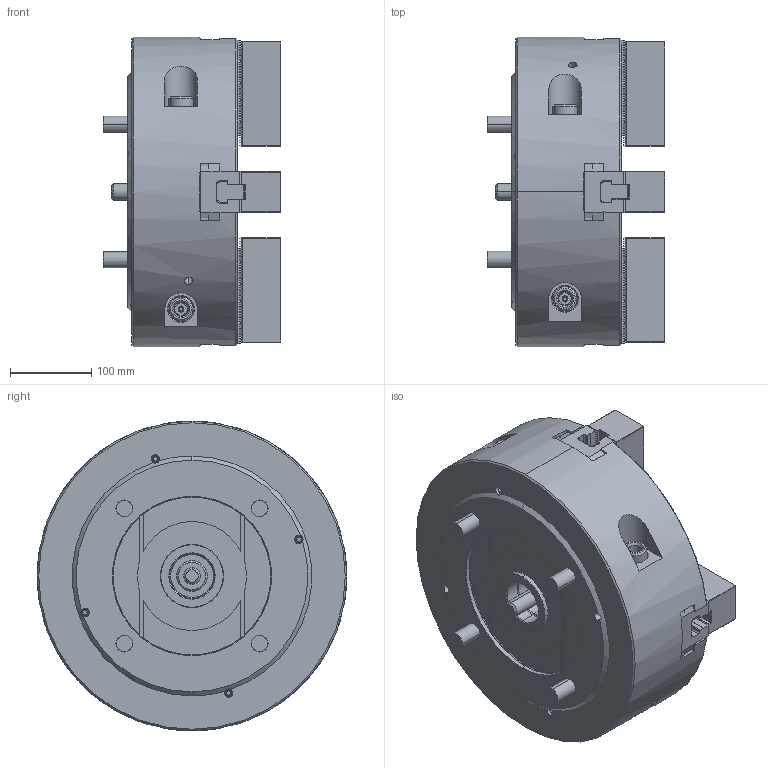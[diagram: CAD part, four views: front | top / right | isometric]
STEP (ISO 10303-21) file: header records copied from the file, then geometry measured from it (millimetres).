
FILE_DESCRIPTION (( 'STEP AP214' ), '1' );
FILE_NAME ('HW-15 61P2759881 ASSY_OC.STEP', '2023-10-13T02:07:12', ( '' ), ( '' ), 'SwSTEP 2.0', 'SolidWorks 2022', '' );
FILE_SCHEMA (( 'AUTOMOTIVE_DESIGN' ));
Length unit declared in the file: millimetre
Products named in the file (7): 61P335564-3_MASTER JAW 1-3_ﾃﾞﾌｫﾙﾄ; 61P323000-4_SOFT JAW_ﾃﾞﾌｫﾙﾄ; 61P400795-6_T NUT_ﾃﾞﾌｫﾙﾄ; HW-15 61P2759881 ASSY_OC; HW-15_BASE^61P275988-1_HW-15 ASSY_ﾃﾞﾌｫﾙﾄ; Bアナツキ M14×40_ﾃﾞﾌｫﾙﾄ; 61P335565-5_MASTER JAW 2-4_ﾃﾞﾌｫﾙﾄ
Assembly tree (21 placements, depth 2):
  HW-15 61P2759881 ASSY_OC
    61P335565-5_MASTER JAW 2-4_ﾃﾞﾌｫﾙﾄ  x2
    61P335564-3_MASTER JAW 1-3_ﾃﾞﾌｫﾙﾄ  x2
    HW-15_BASE^61P275988-1_HW-15 ASSY_ﾃﾞﾌｫﾙﾄ
    61P400795-6_T NUT_ﾃﾞﾌｫﾙﾄ  x4
    61P323000-4_SOFT JAW_ﾃﾞﾌｫﾙﾄ  x4
    Bアナツキ M14×40_ﾃﾞﾌｫﾙﾄ  x8
Bounding box: 218 x 381 x 381 mm (x, y, z)
Volume: 16303856.9 mm3; surface area: 992103.8 mm2
Topology: 21 solids, 25 shells, 5358 faces, 15228 edges, 10038 vertices
Faces by surface type: plane 3703, cylinder 1316, cone 194, bspline 91, torus 54
Entity records: 87921 total; most frequent: CARTESIAN_POINT 21553, ORIENTED_EDGE 14538, DIRECTION 12607, EDGE_CURVE 7269, LINE 5479, VECTOR 5479, VERTEX_POINT 4776, AXIS2_PLACEMENT_3D 3564
